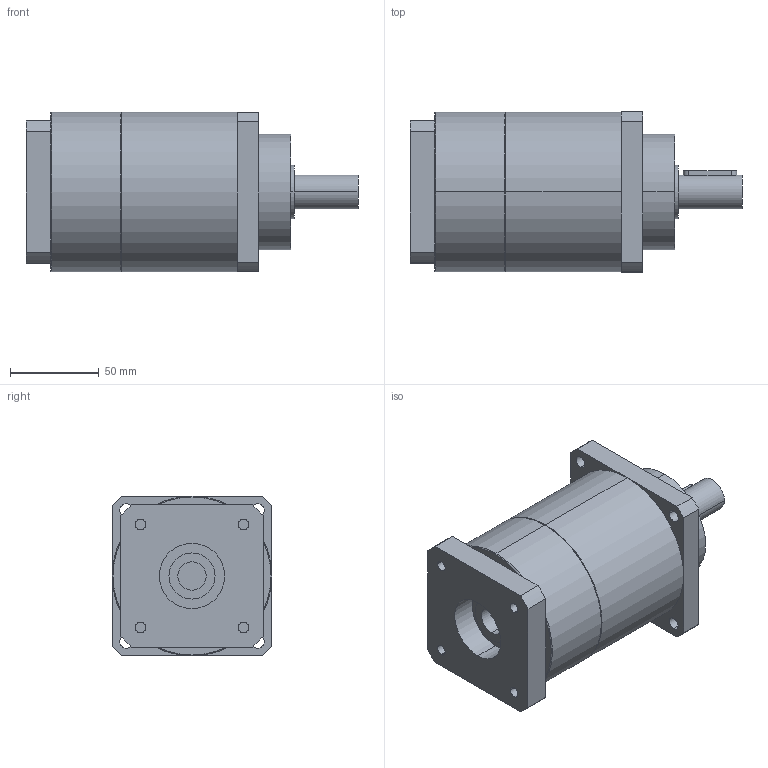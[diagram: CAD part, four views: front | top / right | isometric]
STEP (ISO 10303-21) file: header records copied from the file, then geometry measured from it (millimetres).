
FILE_DESCRIPTION(('CoCreate Modeling STEP Export'),'2;1');
FILE_NAME('GPT90_ig-9-12-16-20-25-28-35-40-50-70-100_19_B5T_15.87_P27.stp','2015-02-04T11:31:33',(''),(''),'CoCreate Modeling STEP processor for AP214 (Solid Model)','CoCreate Modeling 16.00C 25-Feb-2009 (C) Parametric Technology GmbH','');
FILE_SCHEMA(('AUTOMOTIVE_DESIGN { 1 0 10303 214 1 1 1 1 }'));
Length unit declared in the file: millimetre
Products named in the file (2): GPT90_ig-9-12-16-20-25-28-35-40-50-70-100_19_B5T_15.87_P27
Assembly tree (1 placements, depth 2):
  GPT90_ig-9-12-16-20-25-28-35-40-50-70-100_19_B5T_15.87_P27
    GPT90_ig-9-12-16-20-25-28-35-40-50-70-100_19_B5T_15.87_P27
Bounding box: 187 x 90 x 90 mm (x, y, z)
Volume: 900698.3 mm3; surface area: 67449.8 mm2
Topology: 1 solids, 1 shells, 85 faces, 213 edges, 142 vertices
Faces by surface type: cylinder 44, plane 37, cone 4
Entity records: 2624 total; most frequent: CARTESIAN_POINT 742, ORIENTED_EDGE 426, DIRECTION 320, EDGE_CURVE 213, VERTEX_POINT 142, AXIS2_PLACEMENT_3D 117, EDGE_LOOP 105, VECTOR 86
